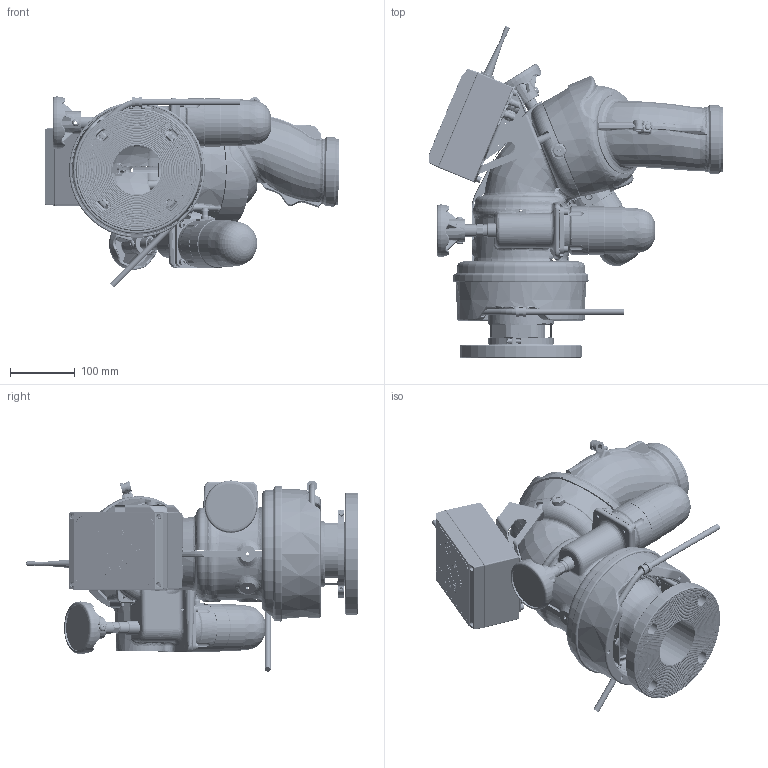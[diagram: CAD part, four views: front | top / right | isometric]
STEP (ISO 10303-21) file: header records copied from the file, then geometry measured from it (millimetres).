
FILE_DESCRIPTION (( 'STEP AP203' ), '1' );
FILE_NAME ('Y4-E11A_Horizontal.STEP', '2014-07-03T17:58:57', ( '' ), ( '' ), 'SwSTEP 2.0', 'SolidWorks 2014', '' );
FILE_SCHEMA (( 'CONFIG_CONTROL_DESIGN' ));
Products named in the file (1): Y4-E11A_Horizontal
Bounding box: 456.1 x 513.48 x 295.8 mm (x, y, z)
Surface area: 1022066.1 mm2 (no closed solid volume)
Topology: 0 solids, 246 shells, 2974 faces, 12704 edges, 9730 vertices
Faces by surface type: plane 899, cylinder 675, bspline 620, torus 459, cone 295, sphere 26
Entity records: 204559 total; most frequent: CARTESIAN_POINT 110975, ORIENTED_EDGE 18276, DIRECTION 16891, EDGE_CURVE 12668, VERTEX_POINT 9720, AXIS2_PLACEMENT_3D 5793, LINE 5305, VECTOR 5305
